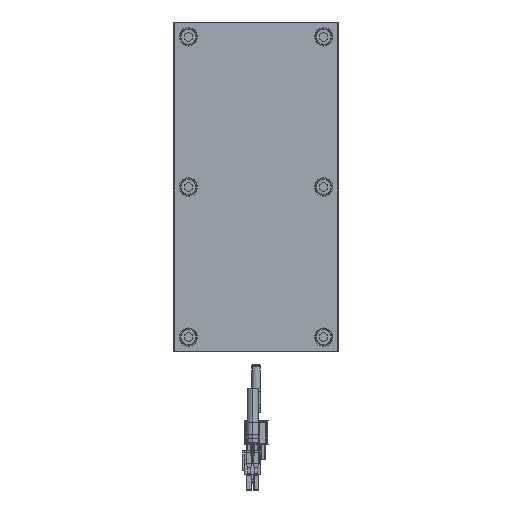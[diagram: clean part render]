
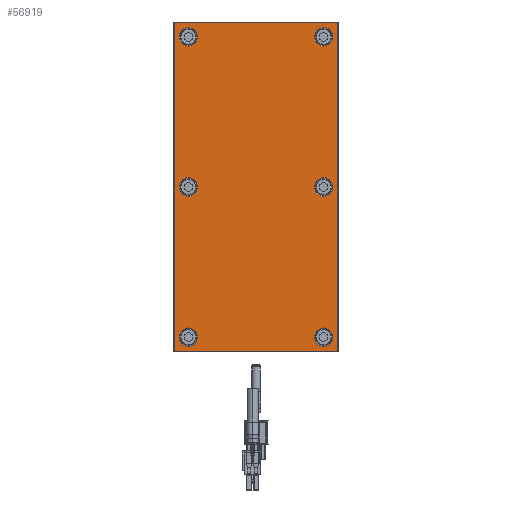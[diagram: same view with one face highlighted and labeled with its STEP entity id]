
A CAD part, front view. The second image highlights one B-rep face of the part: STEP entity #56919.
In plain terms, the highlighted planar face has unit normal (0, -1, 0).
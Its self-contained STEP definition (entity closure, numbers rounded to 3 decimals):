
#55536=CARTESIAN_POINT('',(99.,-7.,-49.));
#55537=DIRECTION('',(0.,-1.,0.));
#55538=DIRECTION('',(0.,0.,-1.));
#55539=AXIS2_PLACEMENT_3D('',#55536,#55537,#55538);
#55541=DIRECTION('',(1.,0.,0.));
#55542=VECTOR('',#55541,198.);
#55543=CARTESIAN_POINT('',(-99.,-7.,
-49.5));
#55544=LINE('',#55543,#55542);
#55545=CARTESIAN_POINT('',(-99.,-7.,-49.));
#55546=DIRECTION('',(0.,-1.,0.));
#55547=DIRECTION('',(-1.,0.,0.));
#55548=AXIS2_PLACEMENT_3D('',#55545,#55546,#55547);
#55550=DIRECTION('',(0.,0.,-1.));
#55551=VECTOR('',#55550,98.);
#55552=CARTESIAN_POINT('',(-99.5,-7.,
49.));
#55553=LINE('',#55552,#55551);
#55554=CARTESIAN_POINT('',(-99.,-7.,49.));
#55555=DIRECTION('',(0.,-1.,0.));
#55556=DIRECTION('',(0.,0.,1.));
#55557=AXIS2_PLACEMENT_3D('',#55554,#55555,#55556);
#55559=DIRECTION('',(-1.,0.,0.));
#55560=VECTOR('',#55559,198.);
#55561=CARTESIAN_POINT('',(99.,-7.,
49.5));
#55562=LINE('',#55561,#55560);
#55563=CARTESIAN_POINT('',(99.,-7.,49.));
#55564=DIRECTION('',(0.,-1.,0.));
#55565=DIRECTION('',(1.,0.,0.));
#55566=AXIS2_PLACEMENT_3D('',#55563,#55564,#55565);
#55568=DIRECTION('',(0.,0.,1.));
#55569=VECTOR('',#55568,98.);
#55570=CARTESIAN_POINT('',(99.5,-7.,
-49.));
#55571=LINE('',#55570,#55569);
#55572=CARTESIAN_POINT('',(-91.,-7.,-41.));
#55573=DIRECTION('',(0.,1.,0.));
#55574=DIRECTION('',(1.,0.,0.));
#55575=AXIS2_PLACEMENT_3D('',#55572,#55573,#55574);
#55577=CARTESIAN_POINT('',(-91.,-7.,-41.));
#55578=DIRECTION('',(0.,1.,0.));
#55579=DIRECTION('',(-1.,0.,0.));
#55580=AXIS2_PLACEMENT_3D('',#55577,#55578,#55579);
#55582=CARTESIAN_POINT('',(0.,-7.,-41.));
#55583=DIRECTION('',(0.,1.,0.));
#55584=DIRECTION('',(1.,0.,0.));
#55585=AXIS2_PLACEMENT_3D('',#55582,#55583,#55584);
#55587=CARTESIAN_POINT('',(0.,-7.,-41.));
#55588=DIRECTION('',(0.,1.,0.));
#55589=DIRECTION('',(-1.,0.,0.));
#55590=AXIS2_PLACEMENT_3D('',#55587,#55588,#55589);
#55592=CARTESIAN_POINT('',(91.,-7.,-41.));
#55593=DIRECTION('',(0.,1.,0.));
#55594=DIRECTION('',(1.,0.,0.));
#55595=AXIS2_PLACEMENT_3D('',#55592,#55593,#55594);
#55597=CARTESIAN_POINT('',(91.,-7.,-41.));
#55598=DIRECTION('',(0.,1.,0.));
#55599=DIRECTION('',(-1.,0.,0.));
#55600=AXIS2_PLACEMENT_3D('',#55597,#55598,#55599);
#55602=CARTESIAN_POINT('',(91.,-7.,41.));
#55603=DIRECTION('',(0.,1.,0.));
#55604=DIRECTION('',(1.,0.,0.));
#55605=AXIS2_PLACEMENT_3D('',#55602,#55603,#55604);
#55607=CARTESIAN_POINT('',(91.,-7.,41.));
#55608=DIRECTION('',(0.,1.,0.));
#55609=DIRECTION('',(-1.,0.,0.));
#55610=AXIS2_PLACEMENT_3D('',#55607,#55608,#55609);
#55612=CARTESIAN_POINT('',(0.,-7.,41.));
#55613=DIRECTION('',(0.,1.,0.));
#55614=DIRECTION('',(1.,0.,0.));
#55615=AXIS2_PLACEMENT_3D('',#55612,#55613,#55614);
#55617=CARTESIAN_POINT('',(0.,-7.,41.));
#55618=DIRECTION('',(0.,1.,0.));
#55619=DIRECTION('',(-1.,0.,0.));
#55620=AXIS2_PLACEMENT_3D('',#55617,#55618,#55619);
#55622=CARTESIAN_POINT('',(-91.,-7.,41.));
#55623=DIRECTION('',(0.,1.,0.));
#55624=DIRECTION('',(1.,0.,0.));
#55625=AXIS2_PLACEMENT_3D('',#55622,#55623,#55624);
#55627=CARTESIAN_POINT('',(-91.,-7.,41.));
#55628=DIRECTION('',(0.,1.,0.));
#55629=DIRECTION('',(-1.,0.,0.));
#55630=AXIS2_PLACEMENT_3D('',#55627,#55628,#55629);
#56660=CARTESIAN_POINT('',(99.,-7.,-49.5));
#56661=CARTESIAN_POINT('',(99.5,-7.,-49.));
#56662=VERTEX_POINT('',#56660);
#56663=VERTEX_POINT('',#56661);
#56668=CARTESIAN_POINT('',(99.5,-7.,
49.));
#56669=VERTEX_POINT('',#56668);
#56672=CARTESIAN_POINT('',(99.,-7.,49.5));
#56673=VERTEX_POINT('',#56672);
#56676=CARTESIAN_POINT('',(-99.,-7.,
49.5));
#56677=VERTEX_POINT('',#56676);
#56680=CARTESIAN_POINT('',(-99.5,-7.,49.));
#56681=VERTEX_POINT('',#56680);
#56684=CARTESIAN_POINT('',(-99.5,-7.,
-49.));
#56685=VERTEX_POINT('',#56684);
#56688=CARTESIAN_POINT('',(-99.,-7.,-49.5));
#56689=VERTEX_POINT('',#56688);
#56716=CARTESIAN_POINT('',(-85.45,-7.,-41.));
#56717=CARTESIAN_POINT('',(-96.55,-7.,-41.));
#56718=VERTEX_POINT('',#56716);
#56719=VERTEX_POINT('',#56717);
#56732=CARTESIAN_POINT('',(5.55,-7.,-41.));
#56733=CARTESIAN_POINT('',(-5.55,-7.,-41.));
#56734=VERTEX_POINT('',#56732);
#56735=VERTEX_POINT('',#56733);
#56756=CARTESIAN_POINT('',(96.55,-7.,-41.));
#56757=CARTESIAN_POINT('',(85.45,-7.,-41.));
#56758=VERTEX_POINT('',#56756);
#56759=VERTEX_POINT('',#56757);
#56772=CARTESIAN_POINT('',(96.55,-7.,41.));
#56773=CARTESIAN_POINT('',(85.45,-7.,41.));
#56774=VERTEX_POINT('',#56772);
#56775=VERTEX_POINT('',#56773);
#56780=CARTESIAN_POINT('',(5.55,-7.,41.));
#56781=CARTESIAN_POINT('',(-5.55,-7.,41.));
#56782=VERTEX_POINT('',#56780);
#56783=VERTEX_POINT('',#56781);
#56804=CARTESIAN_POINT('',(-85.45,-7.,41.));
#56805=CARTESIAN_POINT('',(-96.55,-7.,41.));
#56806=VERTEX_POINT('',#56804);
#56807=VERTEX_POINT('',#56805);
#56860=CARTESIAN_POINT('',(0.,-7.,0.));
#56861=DIRECTION('',(0.,1.,0.));
#56862=DIRECTION('',(1.,0.,0.));
#56863=AXIS2_PLACEMENT_3D('',#56860,#56861,#56862);
#56864=PLANE('',#56863);
#56866=ORIENTED_EDGE('',*,*,#56865,.F.);
#56868=ORIENTED_EDGE('',*,*,#56867,.F.);
#56870=ORIENTED_EDGE('',*,*,#56869,.F.);
#56872=ORIENTED_EDGE('',*,*,#56871,.F.);
#56874=ORIENTED_EDGE('',*,*,#56873,.F.);
#56876=ORIENTED_EDGE('',*,*,#56875,.F.);
#56878=ORIENTED_EDGE('',*,*,#56877,.F.);
#56880=ORIENTED_EDGE('',*,*,#56879,.F.);
#56881=EDGE_LOOP('',(#56866,#56868,#56870,#56872,#56874,#56876,#56878,#56880));
#56882=FACE_OUTER_BOUND('',#56881,.F.);
#56884=ORIENTED_EDGE('',*,*,#56883,.F.);
#56886=ORIENTED_EDGE('',*,*,#56885,.F.);
#56887=EDGE_LOOP('',(#56884,#56886));
#56888=FACE_BOUND('',#56887,.F.);
#56890=ORIENTED_EDGE('',*,*,#56889,.F.);
#56892=ORIENTED_EDGE('',*,*,#56891,.F.);
#56893=EDGE_LOOP('',(#56890,#56892));
#56894=FACE_BOUND('',#56893,.F.);
#56896=ORIENTED_EDGE('',*,*,#56895,.F.);
#56898=ORIENTED_EDGE('',*,*,#56897,.F.);
#56899=EDGE_LOOP('',(#56896,#56898));
#56900=FACE_BOUND('',#56899,.F.);
#56902=ORIENTED_EDGE('',*,*,#56901,.F.);
#56904=ORIENTED_EDGE('',*,*,#56903,.F.);
#56905=EDGE_LOOP('',(#56902,#56904));
#56906=FACE_BOUND('',#56905,.F.);
#56908=ORIENTED_EDGE('',*,*,#56907,.F.);
#56910=ORIENTED_EDGE('',*,*,#56909,.F.);
#56911=EDGE_LOOP('',(#56908,#56910));
#56912=FACE_BOUND('',#56911,.F.);
#56914=ORIENTED_EDGE('',*,*,#56913,.F.);
#56916=ORIENTED_EDGE('',*,*,#56915,.F.);
#56917=EDGE_LOOP('',(#56914,#56916));
#56918=FACE_BOUND('',#56917,.F.);
#56919=ADVANCED_FACE('',(#56882,#56888,#56894,#56900,#56906,#56912,#56918),
#56864,.F.);
#55540=CIRCLE('',#55539,0.5);
#55549=CIRCLE('',#55548,0.5);
#55558=CIRCLE('',#55557,0.5);
#55567=CIRCLE('',#55566,0.5);
#55576=CIRCLE('',#55575,5.55);
#55581=CIRCLE('',#55580,5.55);
#55586=CIRCLE('',#55585,5.55);
#55591=CIRCLE('',#55590,5.55);
#55596=CIRCLE('',#55595,5.55);
#55601=CIRCLE('',#55600,5.55);
#55606=CIRCLE('',#55605,5.55);
#55611=CIRCLE('',#55610,5.55);
#55616=CIRCLE('',#55615,5.55);
#55621=CIRCLE('',#55620,5.55);
#55626=CIRCLE('',#55625,5.55);
#55631=CIRCLE('',#55630,5.55);
#56865=EDGE_CURVE('',#56662,#56663,#55540,.T.);
#56867=EDGE_CURVE('',#56689,#56662,#55544,.T.);
#56869=EDGE_CURVE('',#56685,#56689,#55549,.T.);
#56871=EDGE_CURVE('',#56681,#56685,#55553,.T.);
#56873=EDGE_CURVE('',#56677,#56681,#55558,.T.);
#56875=EDGE_CURVE('',#56673,#56677,#55562,.T.);
#56877=EDGE_CURVE('',#56669,#56673,#55567,.T.);
#56879=EDGE_CURVE('',#56663,#56669,#55571,.T.);
#56883=EDGE_CURVE('',#56718,#56719,#55576,.T.);
#56885=EDGE_CURVE('',#56719,#56718,#55581,.T.);
#56889=EDGE_CURVE('',#56734,#56735,#55586,.T.);
#56891=EDGE_CURVE('',#56735,#56734,#55591,.T.);
#56895=EDGE_CURVE('',#56758,#56759,#55596,.T.);
#56897=EDGE_CURVE('',#56759,#56758,#55601,.T.);
#56901=EDGE_CURVE('',#56774,#56775,#55606,.T.);
#56903=EDGE_CURVE('',#56775,#56774,#55611,.T.);
#56907=EDGE_CURVE('',#56782,#56783,#55616,.T.);
#56909=EDGE_CURVE('',#56783,#56782,#55621,.T.);
#56913=EDGE_CURVE('',#56806,#56807,#55626,.T.);
#56915=EDGE_CURVE('',#56807,#56806,#55631,.T.);
